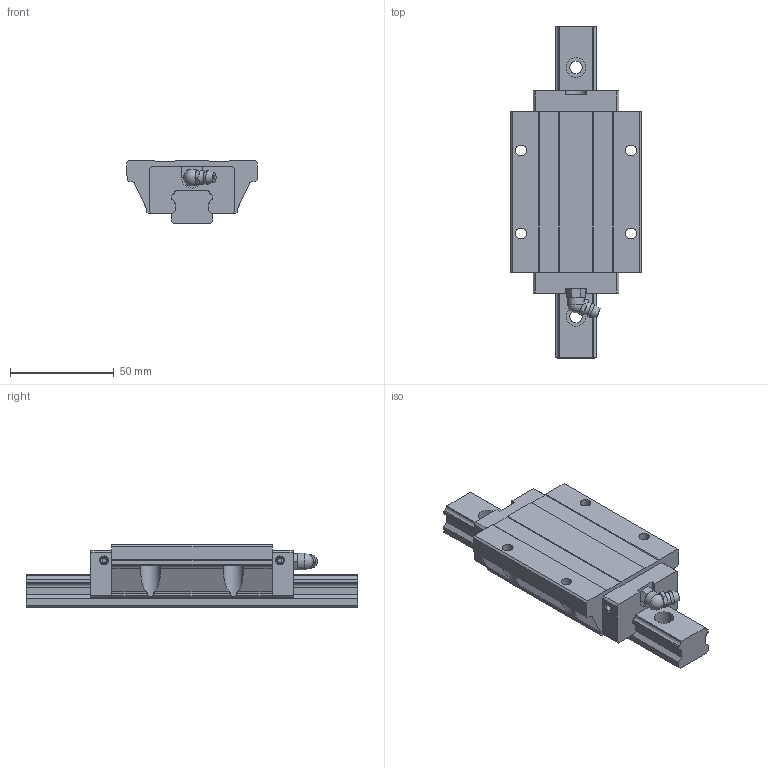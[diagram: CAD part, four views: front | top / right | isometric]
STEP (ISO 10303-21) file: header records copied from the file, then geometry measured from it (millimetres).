
FILE_DESCRIPTION(/* description */ (''),/* implementation_level */ '2;1');
FILE_NAME(/* name */ 'SME20-LEA',/* time_stamp */ '2008-10-06T10:11:53+08:00',/* author */ (''),/* organization */ (''),/* preprocessor_version */ 'ST-DEVELOPER v11',/* originating_system */ 'UGS - NX 5.0',/* authorisation */ '');
FILE_SCHEMA (('AUTOMOTIVE_DESIGN { 1 0 10303 214 1 1 1 1 }'));
Length unit declared in the file: millimetre
Products named in the file (1): jillBD1Calh5
Bounding box: 63 x 160 x 30 mm (x, y, z)
Volume: 147368 mm3; surface area: 34573.8 mm2
Topology: 3 solids, 3 shells, 200 faces, 544 edges, 363 vertices
Faces by surface type: plane 126, cylinder 59, torus 7, cone 5, sphere 2, bspline 1
Full cylindrical faces by diameter (mm): 2 x4, 3.3 x4, 5.2 x4, 6 x3, 6.5 x2, 8 x1, 9.5 x3
Entity records: 6481 total; most frequent: CARTESIAN_POINT 1289, DIRECTION 1008, ORIENTED_EDGE 990, EDGE_CURVE 495, VERTEX_POINT 344, AXIS2_PLACEMENT_3D 339, LINE 330, VECTOR 330
